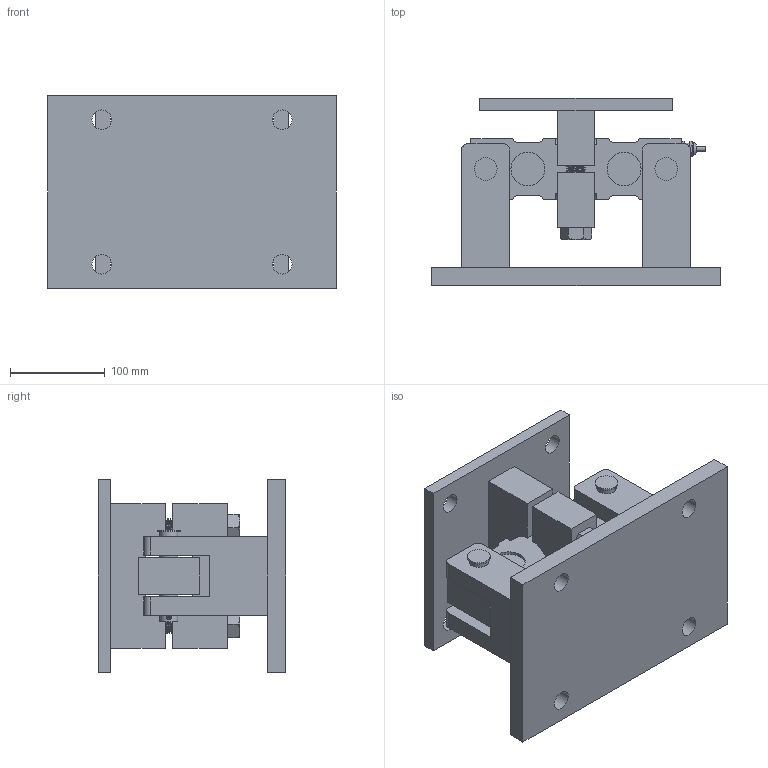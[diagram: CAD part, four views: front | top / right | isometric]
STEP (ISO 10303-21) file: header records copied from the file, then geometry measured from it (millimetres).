
FILE_DESCRIPTION(/* description */ (''),/* implementation_level */ '2;1');
FILE_NAME(/* name */ 'C:/Users/fardi/Dropbox/Work/Anyload/Load Cell Models/Product Catalog 3D/Weight Modules/102/102ESM2/102ESM2-35klb v2.step',/* time_stamp */ '2020-04-30T09:56:29-07:00',/* author */ (''),/* organization */ (''),/* preprocessor_version */ 'ST-DEVELOPER v18.1',/* originating_system */ 'Autodesk Translation Framework v9.2.0.1227',/* authorisation */ '');
FILE_SCHEMA (('AUTOMOTIVE_DESIGN { 1 0 10303 214 3 1 1 }'));
Length unit declared in the file: millimetre
Products named in the file (7): 102ESM2-35klb; Base; 102ES-35klb; Connector; Pins; Top; 91257A850
Assembly tree (7 placements, depth 3):
  102ESM2-35klb
    Base
    102ES-35klb
      Connector
    Pins
    Top
    91257A850  x2
Bounding box: 304.8 x 197.45 x 203.2 mm (x, y, z)
Volume: 3520134.8 mm3; surface area: 470156 mm2
Topology: 9 solids, 9 shells, 435 faces, 1131 edges, 742 vertices
Faces by surface type: cylinder 255, plane 152, cone 19, bspline 9
Full cylindrical faces by diameter (mm): 4.8 x2, 5.1 x1, 5.3 x1, 12 x2, 13 x1, 15.75 x32, 16.573 x52, 19 x2, 19.05 x82, 20.066 x2, 20.3 x4, 20.6 x10, 24 x2, 35.6 x4
Entity records: 24535 total; most frequent: CARTESIAN_POINT 16235, ORIENTED_EDGE 1808, DIRECTION 1477, EDGE_CURVE 904, VERTEX_POINT 593, AXIS2_PLACEMENT_3D 513, LINE 451, VECTOR 451
